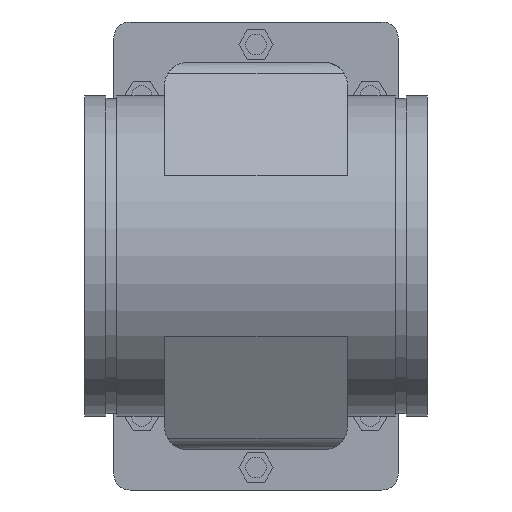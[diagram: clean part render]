
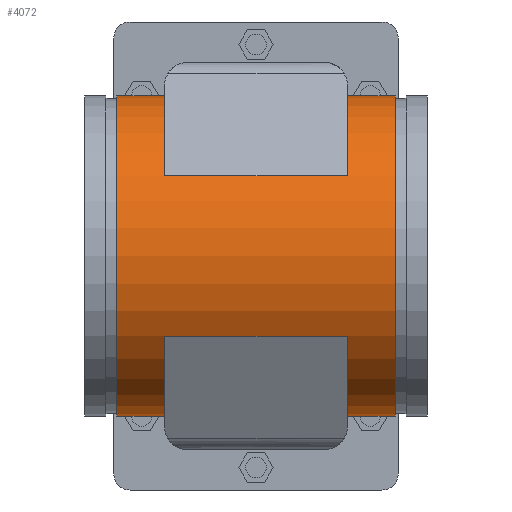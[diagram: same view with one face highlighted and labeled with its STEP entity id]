
A CAD part, front view. The second image highlights one B-rep face of the part: STEP entity #4072.
In plain terms, the highlighted cylindrical face has radius 177.8 mm (diameter 355.6 mm), a full revolution.
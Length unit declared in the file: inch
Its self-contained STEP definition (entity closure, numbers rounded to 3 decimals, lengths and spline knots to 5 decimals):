
#97=CYLINDRICAL_SURFACE('',#4398,7.);
#131=FACE_BOUND('',#685,.T.);
#173=CIRCLE('',#4187,7.);
#174=CIRCLE('',#4190,7.);
#226=CIRCLE('',#4377,7.);
#227=CIRCLE('',#4378,7.);
#240=CIRCLE('',#4396,7.);
#241=CIRCLE('',#4397,7.);
#448=FACE_OUTER_BOUND('',#684,.T.);
#684=EDGE_LOOP('',(#3271,#3272,#3273,#3274,#3275,#3276));
#685=EDGE_LOOP('',(#3277,#3278,#3279,#3280));
#868=LINE('',#5849,#1282);
#1120=LINE('',#6529,#1534);
#1121=LINE('',#6530,#1535);
#1282=VECTOR('',#4725,0.3937);
#1534=VECTOR('',#5397,7.);
#1535=VECTOR('',#5398,0.3937);
#1669=VERTEX_POINT('',#5841);
#1670=VERTEX_POINT('',#5843);
#1671=VERTEX_POINT('',#5847);
#1672=VERTEX_POINT('',#5851);
#1874=VERTEX_POINT('',#6489);
#1875=VERTEX_POINT('',#6490);
#1888=VERTEX_POINT('',#6524);
#1889=VERTEX_POINT('',#6525);
#2067=EDGE_CURVE('',#1670,#1669,#173,.T.);
#2070=EDGE_CURVE('',#1671,#1669,#868,.T.);
#2072=EDGE_CURVE('',#1671,#1672,#174,.T.);
#2378=EDGE_CURVE('',#1874,#1875,#226,.T.);
#2379=EDGE_CURVE('',#1875,#1874,#227,.T.);
#2394=EDGE_CURVE('',#1888,#1889,#240,.T.);
#2395=EDGE_CURVE('',#1889,#1888,#241,.T.);
#2396=EDGE_CURVE('',#1875,#1889,#1120,.T.);
#2397=EDGE_CURVE('',#1672,#1670,#1121,.T.);
#3271=ORIENTED_EDGE('',*,*,#2378,.T.);
#3272=ORIENTED_EDGE('',*,*,#2396,.T.);
#3273=ORIENTED_EDGE('',*,*,#2395,.T.);
#3274=ORIENTED_EDGE('',*,*,#2394,.T.);
#3275=ORIENTED_EDGE('',*,*,#2396,.F.);
#3276=ORIENTED_EDGE('',*,*,#2379,.T.);
#3277=ORIENTED_EDGE('',*,*,#2072,.T.);
#3278=ORIENTED_EDGE('',*,*,#2397,.T.);
#3279=ORIENTED_EDGE('',*,*,#2067,.T.);
#3280=ORIENTED_EDGE('',*,*,#2070,.F.);
#4072=ADVANCED_FACE('',(#448,#131),#97,.T.);
#4187=AXIS2_PLACEMENT_3D('',#5844,#4719,#4720);
#4190=AXIS2_PLACEMENT_3D('',#5853,#4729,#4730);
#4377=AXIS2_PLACEMENT_3D('',#6491,#5351,#5352);
#4378=AXIS2_PLACEMENT_3D('',#6492,#5353,#5354);
#4396=AXIS2_PLACEMENT_3D('',#6526,#5391,#5392);
#4397=AXIS2_PLACEMENT_3D('',#6527,#5393,#5394);
#4398=AXIS2_PLACEMENT_3D('',#6528,#5395,#5396);
#4719=DIRECTION('center_axis',(1.,0.,0.));
#4720=DIRECTION('ref_axis',(0.,1.,0.));
#4725=DIRECTION('',(1.,0.,0.));
#4729=DIRECTION('center_axis',(-1.,0.,0.));
#4730=DIRECTION('ref_axis',(0.,1.,0.));
#5351=DIRECTION('center_axis',(-1.,0.,0.));
#5352=DIRECTION('ref_axis',(0.,1.,0.));
#5353=DIRECTION('center_axis',(-1.,0.,0.));
#5354=DIRECTION('ref_axis',(0.,1.,0.));
#5391=DIRECTION('center_axis',(1.,0.,0.));
#5392=DIRECTION('ref_axis',(0.,1.,0.));
#5393=DIRECTION('center_axis',(1.,0.,0.));
#5394=DIRECTION('ref_axis',(0.,1.,0.));
#5395=DIRECTION('center_axis',(1.,0.,0.));
#5396=DIRECTION('ref_axis',(0.,1.,0.));
#5397=DIRECTION('',(-1.,0.,0.));
#5398=DIRECTION('',(1.,0.,0.));
#5841=CARTESIAN_POINT('',(4.,-6.06218,3.5));
#5843=CARTESIAN_POINT('',(4.,-6.06218,-3.5));
#5844=CARTESIAN_POINT('Origin',(4.,0.,0.));
#5847=CARTESIAN_POINT('',(-4.,-6.06218,3.5));
#5849=CARTESIAN_POINT('',(0.,-6.06218,3.5));
#5851=CARTESIAN_POINT('',(-4.,-6.06218,-3.5));
#5853=CARTESIAN_POINT('Origin',(-4.,0.,0.));
#6489=CARTESIAN_POINT('',(6.093,7.,0.));
#6490=CARTESIAN_POINT('',(6.093,-7.,0.));
#6491=CARTESIAN_POINT('Origin',(6.093,0.,0.));
#6492=CARTESIAN_POINT('Origin',(6.093,0.,0.));
#6524=CARTESIAN_POINT('',(-6.093,7.,0.));
#6525=CARTESIAN_POINT('',(-6.093,-7.,0.));
#6526=CARTESIAN_POINT('Origin',(-6.093,0.,0.));
#6527=CARTESIAN_POINT('Origin',(-6.093,0.,0.));
#6528=CARTESIAN_POINT('Origin',(0.,0.,
0.));
#6529=CARTESIAN_POINT('',(0.,-7.,0.));
#6530=CARTESIAN_POINT('',(0.,-6.06218,-3.5));
